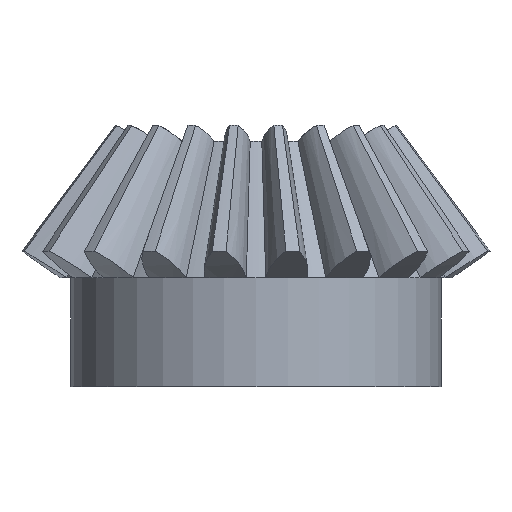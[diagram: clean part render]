
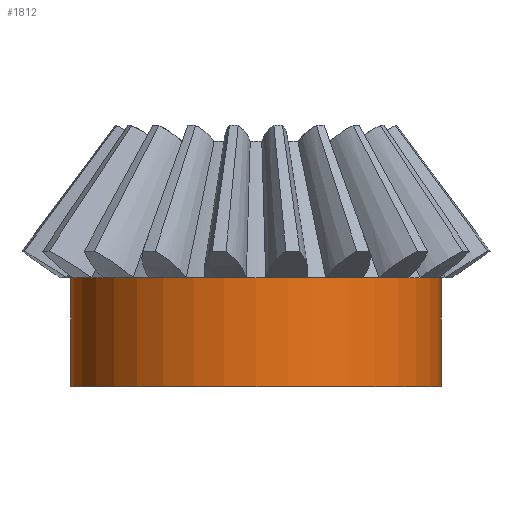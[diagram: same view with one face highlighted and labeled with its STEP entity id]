
A CAD part, front view. The second image highlights one B-rep face of the part: STEP entity #1812.
In plain terms, the highlighted cylindrical face has radius 17 mm (diameter 34 mm), a full revolution.
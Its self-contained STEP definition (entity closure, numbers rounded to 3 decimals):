
#220=CYLINDRICAL_SURFACE('',#2010,17.);
#234=LINE('',#2749,#245);
#245=VECTOR('',#2293,17.);
#260=FACE_OUTER_BOUND('',#392,.T.);
#392=EDGE_LOOP('',(#1197,#1198,#1199,#1200));
#517=CIRCLE('',#1961,17.);
#560=CIRCLE('',#2011,17.);
#649=VERTEX_POINT('',#2633);
#698=VERTEX_POINT('',#2748);
#823=EDGE_CURVE('',#649,#649,#517,.T.);
#878=EDGE_CURVE('',#649,#698,#234,.T.);
#879=EDGE_CURVE('',#698,#698,#560,.T.);
#1197=ORIENTED_EDGE('',*,*,#823,.T.);
#1198=ORIENTED_EDGE('',*,*,#878,.T.);
#1199=ORIENTED_EDGE('',*,*,#879,.F.);
#1200=ORIENTED_EDGE('',*,*,#878,.F.);
#1812=ADVANCED_FACE('',(#260),#220,.T.);
#1961=AXIS2_PLACEMENT_3D('',#2634,#2183,#2184);
#2010=AXIS2_PLACEMENT_3D('',#2747,#2291,#2292);
#2011=AXIS2_PLACEMENT_3D('',#2750,#2294,#2295);
#2183=DIRECTION('center_axis',(0.,0.,1.));
#2184=DIRECTION('ref_axis',(1.,0.,0.));
#2291=DIRECTION('center_axis',(0.,0.,-1.));
#2292=DIRECTION('ref_axis',(1.,0.,0.));
#2293=DIRECTION('',(0.,0.,1.));
#2294=DIRECTION('center_axis',(0.,0.,1.));
#2295=DIRECTION('ref_axis',(1.,0.,0.));
#2633=CARTESIAN_POINT('',(-17.,0.,-41.331));
#2634=CARTESIAN_POINT('Origin',(0.,0.,-41.331));
#2747=CARTESIAN_POINT('Origin',(0.,0.,-31.331));
#2748=CARTESIAN_POINT('',(-17.,0.,-31.331));
#2749=CARTESIAN_POINT('',(-17.,0.,-31.331));
#2750=CARTESIAN_POINT('Origin',(0.,0.,-31.331));
